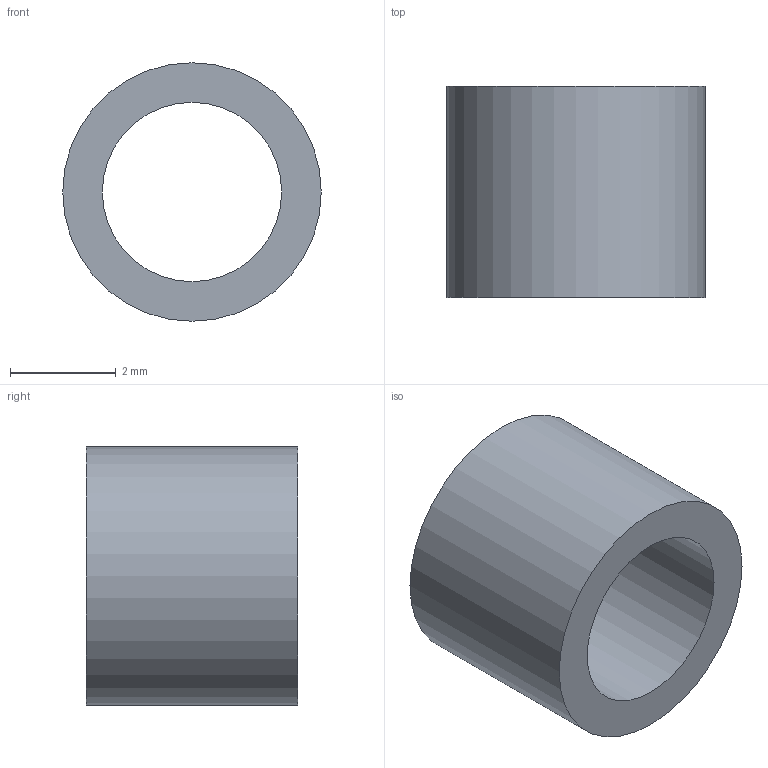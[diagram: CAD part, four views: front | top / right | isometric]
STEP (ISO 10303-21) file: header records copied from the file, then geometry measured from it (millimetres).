
FILE_DESCRIPTION(('Open CASCADE Model'),'2;1');
FILE_NAME('S06-sleeve.step', '', ('Noah Wilson'), (''), '', '', '');
FILE_SCHEMA(('AUTOMOTIVE_DESIGN { 1 0 10303 214 1 1 1 1 }'));
Length unit declared in the file: millimetre
Products named in the file (1): COMPOUND
Bounding box: 4.9 x 4 x 4.9 mm (x, y, z)
Volume: 39.1 mm3; surface area: 123.9 mm2
Topology: 1 solids, 1 shells, 4 faces, 6 edges, 4 vertices
Faces by surface type: cylinder 2, plane 2
Full cylindrical faces by diameter (mm): 3.4 x1, 4.9 x1
Entity records: 186 total; most frequent: DIRECTION 32, CARTESIAN_POINT 27, ORIENTED_EDGE 12, PCURVE 12, DEFINITIONAL_REPRESENTATION 12, LINE 10, VECTOR 10, AXIS2_PLACEMENT_3D 9
